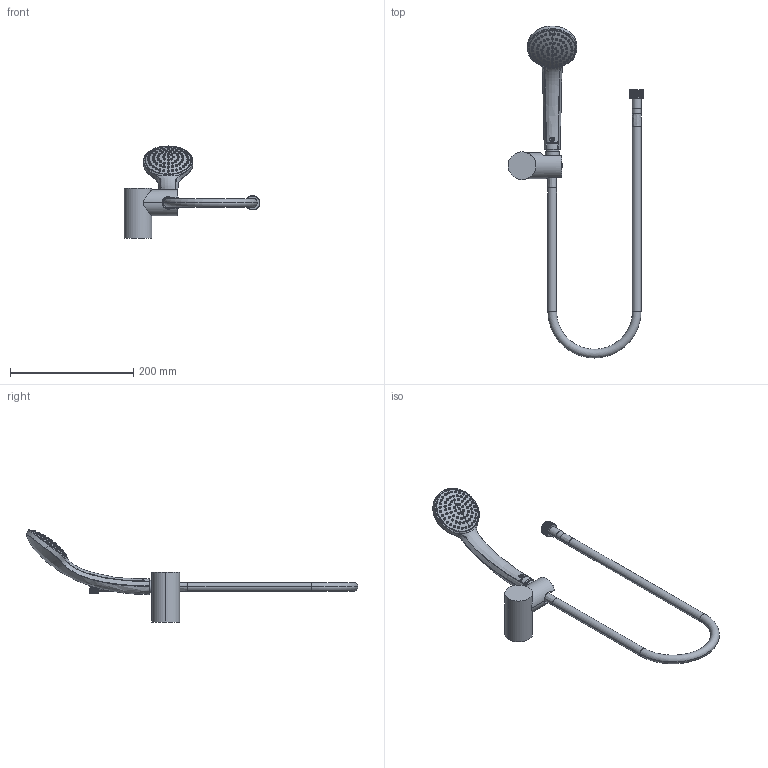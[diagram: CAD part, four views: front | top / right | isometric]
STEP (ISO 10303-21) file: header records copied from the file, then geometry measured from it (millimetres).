
FILE_DESCRIPTION((''),'2;1');
FILE_NAME('B9506AA_3DPL','2021-03-24T',('RibentsovV'),('AMERICAN STANDARD B&K'),'CREO PARAMETRIC BY PTC INC, 2018360','CREO PARAMETRIC BY PTC INC, 2018360','');
FILE_SCHEMA(('CONFIG_CONTROL_DESIGN'));
Length unit declared in the file: millimetre
Products named in the file (1): B9506AA_3DPL
Bounding box: 219.89 x 537.84 x 149.11 mm (x, y, z)
Volume: 492777.3 mm3; surface area: 86305 mm2
Topology: 2 solids, 2 shells, 2549 faces, 6685 edges, 4234 vertices
Faces by surface type: bspline 1407, cylinder 858, cone 165, sphere 83, plane 22, torus 14
Entity records: 167780 total; most frequent: CARTESIAN_POINT 121014, ORIENTED_EDGE 13366, EDGE_CURVE 6683, B_SPLINE_CURVE_WITH_KNOTS 5515, VERTEX_POINT 4234, DIRECTION 4222, EDGE_LOOP 2645, FACE_OUTER_BOUND 2549
